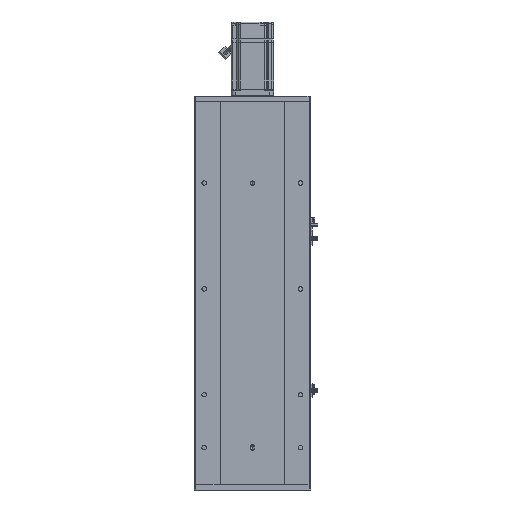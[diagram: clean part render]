
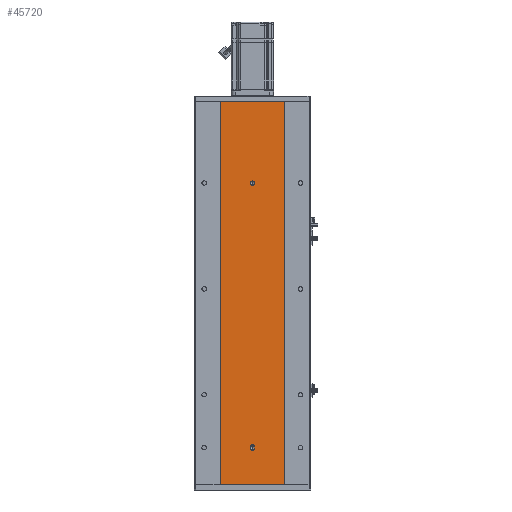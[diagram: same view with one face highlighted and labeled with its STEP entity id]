
A CAD part, front view. The second image highlights one B-rep face of the part: STEP entity #45720.
In plain terms, the highlighted planar face has unit normal (0, -1, 0).
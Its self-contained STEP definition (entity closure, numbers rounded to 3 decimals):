
#1152 = DIRECTION ( 'NONE',  ( 0., 0., -1. ) ) ;
#1715 = VERTEX_POINT ( 'NONE', #60334 ) ;
#2270 = VERTEX_POINT ( 'NONE', #60979 ) ;
#2552 = VERTEX_POINT ( 'NONE', #27823 ) ;
#2736 = CIRCLE ( 'NONE', #29514, 4. ) ;
#3496 = EDGE_CURVE ( 'NONE', #6352, #34745, #13484, .T. ) ;
#3840 = DIRECTION ( 'NONE',  ( 0., 0., -1. ) ) ;
#4202 = FACE_BOUND ( 'NONE', #38151, .T. ) ;
#4393 = VERTEX_POINT ( 'NONE', #56276 ) ;
#4430 = CARTESIAN_POINT ( 'NONE',  ( 0., 0., 574. ) ) ;
#4570 = EDGE_LOOP ( 'NONE', ( #44995, #62574 ) ) ;
#6352 = VERTEX_POINT ( 'NONE', #55338 ) ;
#7054 = DIRECTION ( 'NONE',  ( 0., 1., 0. ) ) ;
#7669 = DIRECTION ( 'NONE',  ( 0., 0., 1. ) ) ;
#8108 = CARTESIAN_POINT ( 'NONE',  ( 4., 0., 71.5 ) ) ;
#10431 = VERTEX_POINT ( 'NONE', #35075 ) ;
#11264 = CARTESIAN_POINT ( 'NONE',  ( 60., 0., 724. ) ) ;
#11978 = DIRECTION ( 'NONE',  ( 0., 0., 1. ) ) ;
#12090 = ORIENTED_EDGE ( 'NONE', *, *, #3496, .F. ) ;
#12206 = PLANE ( 'NONE',  #61833 ) ;
#12419 = CIRCLE ( 'NONE', #38637, 4. ) ;
#12627 = VECTOR ( 'NONE', #65845, 1000. ) ;
#13456 = AXIS2_PLACEMENT_3D ( 'NONE', #63519, #19255, #49868 ) ;
#13484 = LINE ( 'NONE', #8108, #21400 ) ;
#14204 = CARTESIAN_POINT ( 'NONE',  ( 0., 0., 64.5 ) ) ;
#15704 = ORIENTED_EDGE ( 'NONE', *, *, #23872, .F. ) ;
#16397 = ORIENTED_EDGE ( 'NONE', *, *, #66004, .T. ) ;
#17698 = LINE ( 'NONE', #25934, #58988 ) ;
#19255 = DIRECTION ( 'NONE',  ( 0., -1., 0. ) ) ;
#19952 = LINE ( 'NONE', #24209, #26336 ) ;
#20461 = ORIENTED_EDGE ( 'NONE', *, *, #29753, .T. ) ;
#20911 = VERTEX_POINT ( 'NONE', #14204 ) ;
#21400 = VECTOR ( 'NONE', #7669, 1000. ) ;
#21803 = DIRECTION ( 'NONE',  ( 0., 0., -1. ) ) ;
#22100 = ORIENTED_EDGE ( 'NONE', *, *, #57638, .F. ) ;
#22614 = CIRCLE ( 'NONE', #24169, 4. ) ;
#23471 = CARTESIAN_POINT ( 'NONE',  ( -60., 0., 724. ) ) ;
#23872 = EDGE_CURVE ( 'NONE', #46161, #10431, #17698, .T. ) ;
#24169 = AXIS2_PLACEMENT_3D ( 'NONE', #34326, #28975, #3840 ) ;
#24209 = CARTESIAN_POINT ( 'NONE',  ( -60., 0., 0. ) ) ;
#25934 = CARTESIAN_POINT ( 'NONE',  ( -60., 0., 724. ) ) ;
#26012 = DIRECTION ( 'NONE',  ( 0., -1., 0. ) ) ;
#26336 = VECTOR ( 'NONE', #59737, 1000. ) ;
#26715 = VECTOR ( 'NONE', #36876, 1000. ) ;
#27535 = EDGE_CURVE ( 'NONE', #2552, #62757, #35927, .T. ) ;
#27823 = CARTESIAN_POINT ( 'NONE',  ( 0., 0., 566. ) ) ;
#28975 = DIRECTION ( 'NONE',  ( 0., -1., 0. ) ) ;
#29390 = CARTESIAN_POINT ( 'NONE',  ( -60., 0., 724. ) ) ;
#29514 = AXIS2_PLACEMENT_3D ( 'NONE', #57107, #26012, #31348 ) ;
#29753 = EDGE_CURVE ( 'NONE', #2270, #57306, #19952, .T. ) ;
#31348 = DIRECTION ( 'NONE',  ( 0., 0., -1. ) ) ;
#33325 = LINE ( 'NONE', #29390, #12627 ) ;
#34326 = CARTESIAN_POINT ( 'NONE',  ( 0., 0., 68.5 ) ) ;
#34354 = EDGE_CURVE ( 'NONE', #10431, #57306, #62506, .T. ) ;
#34745 = VERTEX_POINT ( 'NONE', #41942 ) ;
#35075 = CARTESIAN_POINT ( 'NONE',  ( 60., 0., 724. ) ) ;
#35349 = EDGE_CURVE ( 'NONE', #34745, #4393, #2736, .T. ) ;
#35927 = CIRCLE ( 'NONE', #13456, 4. ) ;
#35956 = DIRECTION ( 'NONE',  ( 1., 0., 0. ) ) ;
#36626 = ORIENTED_EDGE ( 'NONE', *, *, #58008, .F. ) ;
#36876 = DIRECTION ( 'NONE',  ( 0., 0., -1. ) ) ;
#38151 = EDGE_LOOP ( 'NONE', ( #36626, #59672, #12090, #22100, #64309 ) ) ;
#38212 = EDGE_CURVE ( 'NONE', #1715, #20911, #12419, .T. ) ;
#38637 = AXIS2_PLACEMENT_3D ( 'NONE', #41854, #57121, #21803 ) ;
#39142 = AXIS2_PLACEMENT_3D ( 'NONE', #60880, #50684, #40724 ) ;
#39615 = CIRCLE ( 'NONE', #39142, 4. ) ;
#40724 = DIRECTION ( 'NONE',  ( 0., 0., -1. ) ) ;
#41548 = CARTESIAN_POINT ( 'NONE',  ( 60., 0., 0. ) ) ;
#41854 = CARTESIAN_POINT ( 'NONE',  ( 0., 0., 68.5 ) ) ;
#41942 = CARTESIAN_POINT ( 'NONE',  ( 4., 0., 71.5 ) ) ;
#43990 = FACE_OUTER_BOUND ( 'NONE', #62738, .T. ) ;
#44995 = ORIENTED_EDGE ( 'NONE', *, *, #27535, .F. ) ;
#45720 = ADVANCED_FACE ( 'NONE', ( #50362, #4202, #43990 ), #12206, .F. ) ;
#46161 = VERTEX_POINT ( 'NONE', #23471 ) ;
#46319 = CARTESIAN_POINT ( 'NONE',  ( -4., 0., 71.5 ) ) ;
#47335 = CARTESIAN_POINT ( 'NONE',  ( -60., 0., 724. ) ) ;
#49281 = EDGE_CURVE ( 'NONE', #62757, #2552, #39615, .T. ) ;
#49868 = DIRECTION ( 'NONE',  ( 0., 0., -1. ) ) ;
#49995 = ORIENTED_EDGE ( 'NONE', *, *, #34354, .F. ) ;
#50362 = FACE_BOUND ( 'NONE', #4570, .T. ) ;
#50684 = DIRECTION ( 'NONE',  ( 0., -1., 0. ) ) ;
#54343 = VECTOR ( 'NONE', #1152, 1000. ) ;
#55338 = CARTESIAN_POINT ( 'NONE',  ( 4., 0., 68.5 ) ) ;
#56276 = CARTESIAN_POINT ( 'NONE',  ( -4., 0., 71.5 ) ) ;
#56695 = LINE ( 'NONE', #46319, #54343 ) ;
#57107 = CARTESIAN_POINT ( 'NONE',  ( 0., 0., 71.5 ) ) ;
#57121 = DIRECTION ( 'NONE',  ( 0., -1., 0. ) ) ;
#57306 = VERTEX_POINT ( 'NONE', #41548 ) ;
#57638 = EDGE_CURVE ( 'NONE', #20911, #6352, #22614, .T. ) ;
#58008 = EDGE_CURVE ( 'NONE', #4393, #1715, #56695, .T. ) ;
#58988 = VECTOR ( 'NONE', #35956, 1000. ) ;
#59672 = ORIENTED_EDGE ( 'NONE', *, *, #35349, .F. ) ;
#59737 = DIRECTION ( 'NONE',  ( 1., 0., 0. ) ) ;
#60334 = CARTESIAN_POINT ( 'NONE',  ( -4., 0., 68.5 ) ) ;
#60880 = CARTESIAN_POINT ( 'NONE',  ( 0., 0., 570. ) ) ;
#60979 = CARTESIAN_POINT ( 'NONE',  ( -60., 0., 0. ) ) ;
#61833 = AXIS2_PLACEMENT_3D ( 'NONE', #47335, #7054, #11978 ) ;
#62506 = LINE ( 'NONE', #11264, #26715 ) ;
#62574 = ORIENTED_EDGE ( 'NONE', *, *, #49281, .F. ) ;
#62738 = EDGE_LOOP ( 'NONE', ( #20461, #49995, #15704, #16397 ) ) ;
#62757 = VERTEX_POINT ( 'NONE', #4430 ) ;
#63519 = CARTESIAN_POINT ( 'NONE',  ( 0., 0., 570. ) ) ;
#64309 = ORIENTED_EDGE ( 'NONE', *, *, #38212, .F. ) ;
#65845 = DIRECTION ( 'NONE',  ( 0., 0., -1. ) ) ;
#66004 = EDGE_CURVE ( 'NONE', #46161, #2270, #33325, .T. ) ;
